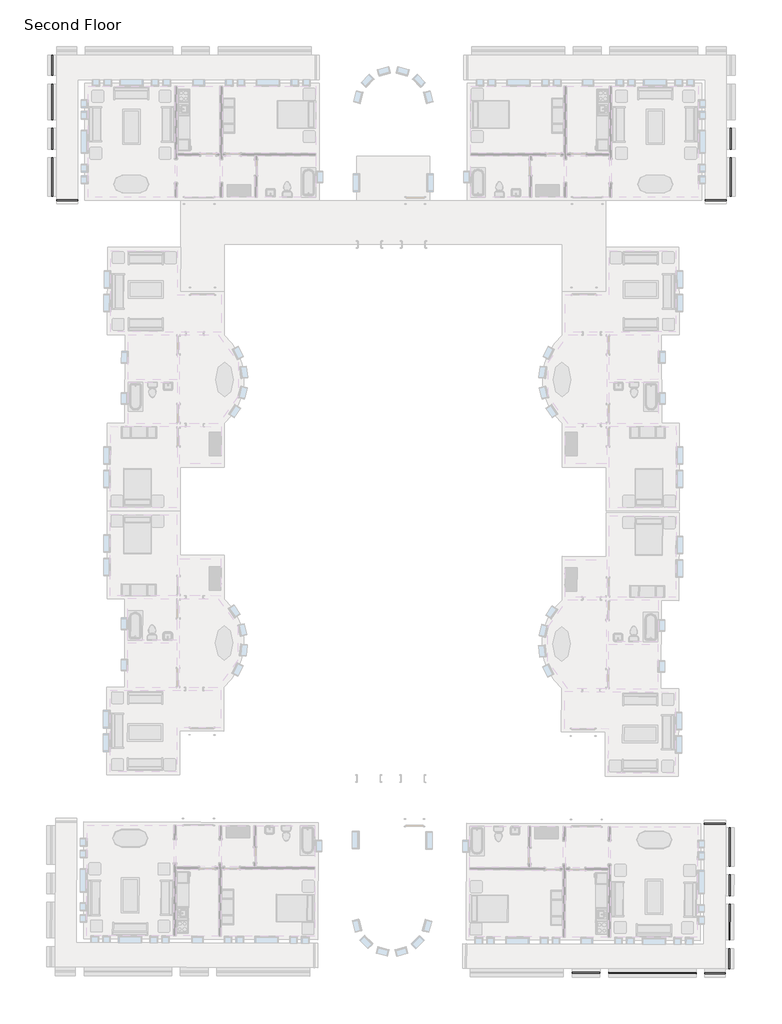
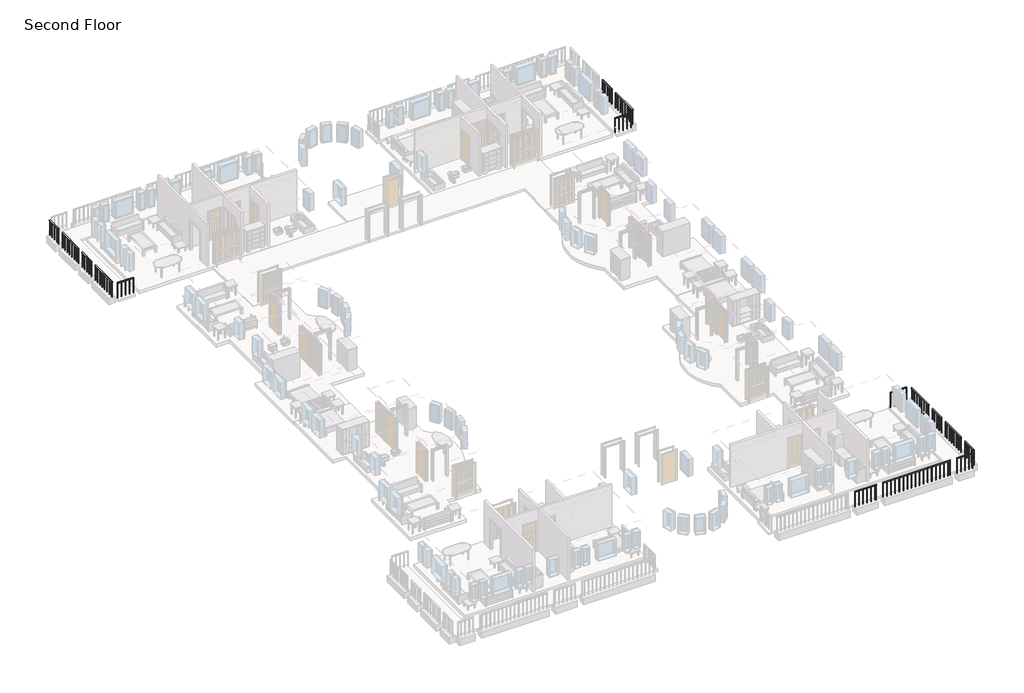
# One storey, part 5 of 8: 16 railings.
"""IFC4 building model written with IfcOpenShell, lengths in millimetres."""

from ifc_helpers import new_model, si_unit, frame, origin, place, context, project, spatial, polyline, outline, extrude, element, save

model = new_model("IFC4")

# Units and contexts
model_context = context("Model", 3, world=origin())
ifc_project = project(units=[si_unit("LENGTHUNIT", "METRE", prefix="MILLI")], contexts=[model_context])

# Site, building, storey
site = spatial("IfcSite", under=ifc_project)
building = spatial("IfcBuilding", under=site)
storey = spatial("IfcBuildingStorey", under=building, Name="Second Floor", Elevation=3048.0)

# Railings
placement = place(None, origin())
element("IfcRailing", 1, ObjectType="1100mm", at=placement, inside=storey, context=model_context, shape_type="SweptSolid", body=[
    extrude(outline(polyline([(-1443.3416203, 231.1188386), (-1393.3416203, 231.1188386), (-1393.3416203, -845.3811614), (-1443.3416203, -845.3811614), (-1443.3416203, 231.1188386)])), frame((0.0, 0.0, 4098.0), z_axis=(0.0, 0.0, 1.0), x_axis=(1.0, 0.0, 0.0)), (0.0, 0.0, 1.0), 50.0),
    extrude(outline(polyline([(-1430.8416203, -581.3811614), (-1405.8416203, -581.3811614), (-1405.8416203, -606.3811614), (-1430.8416203, -606.3811614), (-1430.8416203, -581.3811614)])), frame((0.0, 0.0, 3048.0), z_axis=(0.0, 0.0, 1.0), x_axis=(1.0, 0.0, 0.0)), (0.0, 0.0, 1.0), 1050.0),
    extrude(outline(polyline([(-1430.8416203, -306.3811614), (-1405.8416203, -306.3811614), (-1405.8416203, -331.3811614), (-1430.8416203, -331.3811614), (-1430.8416203, -306.3811614)])), frame((0.0, 0.0, 3048.0), z_axis=(0.0, 0.0, 1.0), x_axis=(1.0, 0.0, 0.0)), (0.0, 0.0, 1.0), 1050.0),
    extrude(outline(polyline([(-1430.8416203, -31.3811614), (-1405.8416203, -31.3811614), (-1405.8416203, -56.3811614), (-1430.8416203, -56.3811614), (-1430.8416203, -31.3811614)])), frame((0.0, 0.0, 3048.0), z_axis=(0.0, 0.0, 1.0), x_axis=(1.0, 0.0, 0.0)), (0.0, 0.0, 1.0), 1050.0),
    extrude(outline(polyline([(-1430.8416203, -820.3811614), (-1405.8416203, -820.3811614), (-1405.8416203, -845.3811614), (-1430.8416203, -845.3811614), (-1430.8416203, -820.3811614)])), frame((0.0, 0.0, 3048.0), z_axis=(0.0, 0.0, 1.0), x_axis=(1.0, 0.0, 0.0)), (0.0, 0.0, 1.0), 1050.0),
    extrude(outline(polyline([(-1430.8416203, 231.1188386), (-1405.8416203, 231.1188386), (-1405.8416203, 206.1188386), (-1430.8416203, 206.1188386), (-1430.8416203, 231.1188386)])), frame((0.0, 0.0, 3048.0), z_axis=(0.0, 0.0, 1.0), x_axis=(1.0, 0.0, 0.0)), (0.0, 0.0, 1.0), 1050.0),
])
element("IfcRailing", 2, ObjectType="1100mm", at=placement, inside=storey, context=model_context, shape_type="SweptSolid", body=[
    extrude(outline(polyline([(-1443.3416203, -1295.3811614), (-1393.3416203, -1295.3811614), (-1393.3416203, -3289.8811614), (-1443.3416203, -3289.8811614), (-1443.3416203, -1295.3811614)])), frame((0.0, 0.0, 4098.0), z_axis=(0.0, 0.0, 1.0), x_axis=(1.0, 0.0, 0.0)), (0.0, 0.0, 1.0), 50.0),
    extrude(outline(polyline([(-1430.8416203, -3207.8811614), (-1405.8416203, -3207.8811614), (-1405.8416203, -3232.8811614), (-1430.8416203, -3232.8811614), (-1430.8416203, -3207.8811614)])), frame((0.0, 0.0, 3048.0), z_axis=(0.0, 0.0, 1.0), x_axis=(1.0, 0.0, 0.0)), (0.0, 0.0, 1.0), 1050.0),
    extrude(outline(polyline([(-1430.8416203, -2932.8811614), (-1405.8416203, -2932.8811614), (-1405.8416203, -2957.8811614), (-1430.8416203, -2957.8811614), (-1430.8416203, -2932.8811614)])), frame((0.0, 0.0, 3048.0), z_axis=(0.0, 0.0, 1.0), x_axis=(1.0, 0.0, 0.0)), (0.0, 0.0, 1.0), 1050.0),
    extrude(outline(polyline([(-1430.8416203, -2657.8811614), (-1405.8416203, -2657.8811614), (-1405.8416203, -2682.8811614), (-1430.8416203, -2682.8811614), (-1430.8416203, -2657.8811614)])), frame((0.0, 0.0, 3048.0), z_axis=(0.0, 0.0, 1.0), x_axis=(1.0, 0.0, 0.0)), (0.0, 0.0, 1.0), 1050.0),
    extrude(outline(polyline([(-1430.8416203, -2382.8811614), (-1405.8416203, -2382.8811614), (-1405.8416203, -2407.8811614), (-1430.8416203, -2407.8811614), (-1430.8416203, -2382.8811614)])), frame((0.0, 0.0, 3048.0), z_axis=(0.0, 0.0, 1.0), x_axis=(1.0, 0.0, 0.0)), (0.0, 0.0, 1.0), 1050.0),
    extrude(outline(polyline([(-1430.8416203, -2107.8811614), (-1405.8416203, -2107.8811614), (-1405.8416203, -2132.8811614), (-1430.8416203, -2132.8811614), (-1430.8416203, -2107.8811614)])), frame((0.0, 0.0, 3048.0), z_axis=(0.0, 0.0, 1.0), x_axis=(1.0, 0.0, 0.0)), (0.0, 0.0, 1.0), 1050.0),
    extrude(outline(polyline([(-1430.8416203, -1832.8811614), (-1405.8416203, -1832.8811614), (-1405.8416203, -1857.8811614), (-1430.8416203, -1857.8811614), (-1430.8416203, -1832.8811614)])), frame((0.0, 0.0, 3048.0), z_axis=(0.0, 0.0, 1.0), x_axis=(1.0, 0.0, 0.0)), (0.0, 0.0, 1.0), 1050.0),
    extrude(outline(polyline([(-1430.8416203, -1557.8811614), (-1405.8416203, -1557.8811614), (-1405.8416203, -1582.8811614), (-1430.8416203, -1582.8811614), (-1430.8416203, -1557.8811614)])), frame((0.0, 0.0, 3048.0), z_axis=(0.0, 0.0, 1.0), x_axis=(1.0, 0.0, 0.0)), (0.0, 0.0, 1.0), 1050.0),
    extrude(outline(polyline([(-1430.8416203, -3264.8811614), (-1405.8416203, -3264.8811614), (-1405.8416203, -3289.8811614), (-1430.8416203, -3289.8811614), (-1430.8416203, -3264.8811614)])), frame((0.0, 0.0, 3048.0), z_axis=(0.0, 0.0, 1.0), x_axis=(1.0, 0.0, 0.0)), (0.0, 0.0, 1.0), 1050.0),
    extrude(outline(polyline([(-1430.8416203, -1295.3811614), (-1405.8416203, -1295.3811614), (-1405.8416203, -1320.3811614), (-1430.8416203, -1320.3811614), (-1430.8416203, -1295.3811614)])), frame((0.0, 0.0, 3048.0), z_axis=(0.0, 0.0, 1.0), x_axis=(1.0, 0.0, 0.0)), (0.0, 0.0, 1.0), 1050.0),
])
element("IfcRailing", 3, ObjectType="1100mm", at=placement, inside=storey, context=model_context, shape_type="SweptSolid", body=[
    extrude(outline(polyline([(-1643.3416203, -3489.8811614), (-1643.3416203, -3539.8811614), (-2743.3416203, -3539.8811614), (-2743.3416203, -3489.8811614), (-1643.3416203, -3489.8811614)])), frame((0.0, 0.0, 4098.0), z_axis=(0.0, 0.0, 1.0), x_axis=(1.0, 0.0, 0.0)), (0.0, 0.0, 1.0), 50.0),
    extrude(outline(polyline([(-2455.8416203, -3502.3811614), (-2455.8416203, -3527.3811614), (-2480.8416203, -3527.3811614), (-2480.8416203, -3502.3811614), (-2455.8416203, -3502.3811614)])), frame((0.0, 0.0, 3048.0), z_axis=(0.0, 0.0, 1.0), x_axis=(1.0, 0.0, 0.0)), (0.0, 0.0, 1.0), 1050.0),
    extrude(outline(polyline([(-2180.8416203, -3502.3811614), (-2180.8416203, -3527.3811614), (-2205.8416203, -3527.3811614), (-2205.8416203, -3502.3811614), (-2180.8416203, -3502.3811614)])), frame((0.0, 0.0, 3048.0), z_axis=(0.0, 0.0, 1.0), x_axis=(1.0, 0.0, 0.0)), (0.0, 0.0, 1.0), 1050.0),
    extrude(outline(polyline([(-1905.8416203, -3502.3811614), (-1905.8416203, -3527.3811614), (-1930.8416203, -3527.3811614), (-1930.8416203, -3502.3811614), (-1905.8416203, -3502.3811614)])), frame((0.0, 0.0, 3048.0), z_axis=(0.0, 0.0, 1.0), x_axis=(1.0, 0.0, 0.0)), (0.0, 0.0, 1.0), 1050.0),
    extrude(outline(polyline([(-2718.3416203, -3502.3811614), (-2718.3416203, -3527.3811614), (-2743.3416203, -3527.3811614), (-2743.3416203, -3502.3811614), (-2718.3416203, -3502.3811614)])), frame((0.0, 0.0, 3048.0), z_axis=(0.0, 0.0, 1.0), x_axis=(1.0, 0.0, 0.0)), (0.0, 0.0, 1.0), 1050.0),
    extrude(outline(polyline([(-1643.3416203, -3502.3811614), (-1643.3416203, -3527.3811614), (-1668.3416203, -3527.3811614), (-1668.3416203, -3502.3811614), (-1643.3416203, -3502.3811614)])), frame((0.0, 0.0, 3048.0), z_axis=(0.0, 0.0, 1.0), x_axis=(1.0, 0.0, 0.0)), (0.0, 0.0, 1.0), 1050.0),
])
element("IfcRailing", 4, ObjectType="1100mm", at=placement, inside=storey, context=model_context, shape_type="SweptSolid", body=[
    extrude(outline(polyline([(-36708.8416203, 4031.1188386), (-36658.8416203, 4031.1188386), (-36658.8416203, 2981.1188386), (-36708.8416203, 2981.1188386), (-36708.8416203, 4031.1188386)])), frame((0.0, 0.0, 4098.0), z_axis=(0.0, 0.0, 1.0), x_axis=(1.0, 0.0, 0.0)), (0.0, 0.0, 1.0), 50.0),
    extrude(outline(polyline([(-36671.3416203, 3218.6188386), (-36671.3416203, 3193.6188386), (-36696.3416203, 3193.6188386), (-36696.3416203, 3218.6188386), (-36671.3416203, 3218.6188386)])), frame((0.0, 0.0, 3048.0), z_axis=(0.0, 0.0, 1.0), x_axis=(1.0, 0.0, 0.0)), (0.0, 0.0, 1.0), 1050.0),
    extrude(outline(polyline([(-36671.3416203, 3493.6188386), (-36671.3416203, 3468.6188386), (-36696.3416203, 3468.6188386), (-36696.3416203, 3493.6188386), (-36671.3416203, 3493.6188386)])), frame((0.0, 0.0, 3048.0), z_axis=(0.0, 0.0, 1.0), x_axis=(1.0, 0.0, 0.0)), (0.0, 0.0, 1.0), 1050.0),
    extrude(outline(polyline([(-36671.3416203, 3768.6188386), (-36671.3416203, 3743.6188386), (-36696.3416203, 3743.6188386), (-36696.3416203, 3768.6188386), (-36671.3416203, 3768.6188386)])), frame((0.0, 0.0, 3048.0), z_axis=(0.0, 0.0, 1.0), x_axis=(1.0, 0.0, 0.0)), (0.0, 0.0, 1.0), 1050.0),
    extrude(outline(polyline([(-36671.3416203, 3006.1188386), (-36671.3416203, 2981.1188386), (-36696.3416203, 2981.1188386), (-36696.3416203, 3006.1188386), (-36671.3416203, 3006.1188386)])), frame((0.0, 0.0, 3048.0), z_axis=(0.0, 0.0, 1.0), x_axis=(1.0, 0.0, 0.0)), (0.0, 0.0, 1.0), 1050.0),
    extrude(outline(polyline([(-36671.3416203, 4031.1188386), (-36671.3416203, 4006.1188386), (-36696.3416203, 4006.1188386), (-36696.3416203, 4031.1188386), (-36671.3416203, 4031.1188386)])), frame((0.0, 0.0, 3048.0), z_axis=(0.0, 0.0, 1.0), x_axis=(1.0, 0.0, 0.0)), (0.0, 0.0, 1.0), 1050.0),
])
element("IfcRailing", 5, ObjectType="1100mm", at=placement, inside=storey, context=model_context, shape_type="SweptSolid", body=[
    extrude(outline(polyline([(-36708.8416203, 2531.1188386), (-36658.8416203, 2531.1188386), (-36658.8416203, 681.1188386), (-36708.8416203, 681.1188386), (-36708.8416203, 2531.1188386)])), frame((0.0, 0.0, 4098.0), z_axis=(0.0, 0.0, 1.0), x_axis=(1.0, 0.0, 0.0)), (0.0, 0.0, 1.0), 50.0),
    extrude(outline(polyline([(-36671.3416203, 893.6188386), (-36671.3416203, 868.6188386), (-36696.3416203, 868.6188386), (-36696.3416203, 893.6188386), (-36671.3416203, 893.6188386)])), frame((0.0, 0.0, 3048.0), z_axis=(0.0, 0.0, 1.0), x_axis=(1.0, 0.0, 0.0)), (0.0, 0.0, 1.0), 1050.0),
    extrude(outline(polyline([(-36671.3416203, 1168.6188386), (-36671.3416203, 1143.6188386), (-36696.3416203, 1143.6188386), (-36696.3416203, 1168.6188386), (-36671.3416203, 1168.6188386)])), frame((0.0, 0.0, 3048.0), z_axis=(0.0, 0.0, 1.0), x_axis=(1.0, 0.0, 0.0)), (0.0, 0.0, 1.0), 1050.0),
    extrude(outline(polyline([(-36671.3416203, 1443.6188386), (-36671.3416203, 1418.6188386), (-36696.3416203, 1418.6188386), (-36696.3416203, 1443.6188386), (-36671.3416203, 1443.6188386)])), frame((0.0, 0.0, 3048.0), z_axis=(0.0, 0.0, 1.0), x_axis=(1.0, 0.0, 0.0)), (0.0, 0.0, 1.0), 1050.0),
    extrude(outline(polyline([(-36671.3416203, 1718.6188386), (-36671.3416203, 1693.6188386), (-36696.3416203, 1693.6188386), (-36696.3416203, 1718.6188386), (-36671.3416203, 1718.6188386)])), frame((0.0, 0.0, 3048.0), z_axis=(0.0, 0.0, 1.0), x_axis=(1.0, 0.0, 0.0)), (0.0, 0.0, 1.0), 1050.0),
    extrude(outline(polyline([(-36671.3416203, 1993.6188386), (-36671.3416203, 1968.6188386), (-36696.3416203, 1968.6188386), (-36696.3416203, 1993.6188386), (-36671.3416203, 1993.6188386)])), frame((0.0, 0.0, 3048.0), z_axis=(0.0, 0.0, 1.0), x_axis=(1.0, 0.0, 0.0)), (0.0, 0.0, 1.0), 1050.0),
    extrude(outline(polyline([(-36671.3416203, 2268.6188386), (-36671.3416203, 2243.6188386), (-36696.3416203, 2243.6188386), (-36696.3416203, 2268.6188386), (-36671.3416203, 2268.6188386)])), frame((0.0, 0.0, 3048.0), z_axis=(0.0, 0.0, 1.0), x_axis=(1.0, 0.0, 0.0)), (0.0, 0.0, 1.0), 1050.0),
    extrude(outline(polyline([(-36671.3416203, 706.1188386), (-36671.3416203, 681.1188386), (-36696.3416203, 681.1188386), (-36696.3416203, 706.1188386), (-36671.3416203, 706.1188386)])), frame((0.0, 0.0, 3048.0), z_axis=(0.0, 0.0, 1.0), x_axis=(1.0, 0.0, 0.0)), (0.0, 0.0, 1.0), 1050.0),
    extrude(outline(polyline([(-36671.3416203, 2531.1188386), (-36671.3416203, 2506.1188386), (-36696.3416203, 2506.1188386), (-36696.3416203, 2531.1188386), (-36671.3416203, 2531.1188386)])), frame((0.0, 0.0, 3048.0), z_axis=(0.0, 0.0, 1.0), x_axis=(1.0, 0.0, 0.0)), (0.0, 0.0, 1.0), 1050.0),
])
element("IfcRailing", 6, ObjectType="1100mm", at=placement, inside=storey, context=model_context, shape_type="SweptSolid", body=[
    extrude(outline(polyline([(-36708.8416203, 231.1188386), (-36658.8416203, 231.1188386), (-36658.8416203, -845.3811614), (-36708.8416203, -845.3811614), (-36708.8416203, 231.1188386)])), frame((0.0, 0.0, 4098.0), z_axis=(0.0, 0.0, 1.0), x_axis=(1.0, 0.0, 0.0)), (0.0, 0.0, 1.0), 50.0),
    extrude(outline(polyline([(-36671.3416203, -581.3811614), (-36671.3416203, -606.3811614), (-36696.3416203, -606.3811614), (-36696.3416203, -581.3811614), (-36671.3416203, -581.3811614)])), frame((0.0, 0.0, 3048.0), z_axis=(0.0, 0.0, 1.0), x_axis=(1.0, 0.0, 0.0)), (0.0, 0.0, 1.0), 1050.0),
    extrude(outline(polyline([(-36671.3416203, -306.3811614), (-36671.3416203, -331.3811614), (-36696.3416203, -331.3811614), (-36696.3416203, -306.3811614), (-36671.3416203, -306.3811614)])), frame((0.0, 0.0, 3048.0), z_axis=(0.0, 0.0, 1.0), x_axis=(1.0, 0.0, 0.0)), (0.0, 0.0, 1.0), 1050.0),
    extrude(outline(polyline([(-36671.3416203, -31.3811614), (-36671.3416203, -56.3811614), (-36696.3416203, -56.3811614), (-36696.3416203, -31.3811614), (-36671.3416203, -31.3811614)])), frame((0.0, 0.0, 3048.0), z_axis=(0.0, 0.0, 1.0), x_axis=(1.0, 0.0, 0.0)), (0.0, 0.0, 1.0), 1050.0),
    extrude(outline(polyline([(-36671.3416203, -820.3811614), (-36671.3416203, -845.3811614), (-36696.3416203, -845.3811614), (-36696.3416203, -820.3811614), (-36671.3416203, -820.3811614)])), frame((0.0, 0.0, 3048.0), z_axis=(0.0, 0.0, 1.0), x_axis=(1.0, 0.0, 0.0)), (0.0, 0.0, 1.0), 1050.0),
    extrude(outline(polyline([(-36671.3416203, 231.1188386), (-36671.3416203, 206.1188386), (-36696.3416203, 206.1188386), (-36696.3416203, 231.1188386), (-36671.3416203, 231.1188386)])), frame((0.0, 0.0, 3048.0), z_axis=(0.0, 0.0, 1.0), x_axis=(1.0, 0.0, 0.0)), (0.0, 0.0, 1.0), 1050.0),
])
element("IfcRailing", 7, ObjectType="1100mm", at=placement, inside=storey, context=model_context, shape_type="SweptSolid", body=[
    extrude(outline(polyline([(-36708.8416203, -1295.3811614), (-36658.8416203, -1295.3811614), (-36658.8416203, -3289.8811614), (-36708.8416203, -3289.8811614), (-36708.8416203, -1295.3811614)])), frame((0.0, 0.0, 4098.0), z_axis=(0.0, 0.0, 1.0), x_axis=(1.0, 0.0, 0.0)), (0.0, 0.0, 1.0), 50.0),
    extrude(outline(polyline([(-36671.3416203, -3207.8811614), (-36671.3416203, -3232.8811614), (-36696.3416203, -3232.8811614), (-36696.3416203, -3207.8811614), (-36671.3416203, -3207.8811614)])), frame((0.0, 0.0, 3048.0), z_axis=(0.0, 0.0, 1.0), x_axis=(1.0, 0.0, 0.0)), (0.0, 0.0, 1.0), 1050.0),
    extrude(outline(polyline([(-36671.3416203, -2932.8811614), (-36671.3416203, -2957.8811614), (-36696.3416203, -2957.8811614), (-36696.3416203, -2932.8811614), (-36671.3416203, -2932.8811614)])), frame((0.0, 0.0, 3048.0), z_axis=(0.0, 0.0, 1.0), x_axis=(1.0, 0.0, 0.0)), (0.0, 0.0, 1.0), 1050.0),
    extrude(outline(polyline([(-36671.3416203, -2657.8811614), (-36671.3416203, -2682.8811614), (-36696.3416203, -2682.8811614), (-36696.3416203, -2657.8811614), (-36671.3416203, -2657.8811614)])), frame((0.0, 0.0, 3048.0), z_axis=(0.0, 0.0, 1.0), x_axis=(1.0, 0.0, 0.0)), (0.0, 0.0, 1.0), 1050.0),
    extrude(outline(polyline([(-36671.3416203, -2382.8811614), (-36671.3416203, -2407.8811614), (-36696.3416203, -2407.8811614), (-36696.3416203, -2382.8811614), (-36671.3416203, -2382.8811614)])), frame((0.0, 0.0, 3048.0), z_axis=(0.0, 0.0, 1.0), x_axis=(1.0, 0.0, 0.0)), (0.0, 0.0, 1.0), 1050.0),
    extrude(outline(polyline([(-36671.3416203, -2107.8811614), (-36671.3416203, -2132.8811614), (-36696.3416203, -2132.8811614), (-36696.3416203, -2107.8811614), (-36671.3416203, -2107.8811614)])), frame((0.0, 0.0, 3048.0), z_axis=(0.0, 0.0, 1.0), x_axis=(1.0, 0.0, 0.0)), (0.0, 0.0, 1.0), 1050.0),
    extrude(outline(polyline([(-36671.3416203, -1832.8811614), (-36671.3416203, -1857.8811614), (-36696.3416203, -1857.8811614), (-36696.3416203, -1832.8811614), (-36671.3416203, -1832.8811614)])), frame((0.0, 0.0, 3048.0), z_axis=(0.0, 0.0, 1.0), x_axis=(1.0, 0.0, 0.0)), (0.0, 0.0, 1.0), 1050.0),
    extrude(outline(polyline([(-36671.3416203, -1557.8811614), (-36671.3416203, -1582.8811614), (-36696.3416203, -1582.8811614), (-36696.3416203, -1557.8811614), (-36671.3416203, -1557.8811614)])), frame((0.0, 0.0, 3048.0), z_axis=(0.0, 0.0, 1.0), x_axis=(1.0, 0.0, 0.0)), (0.0, 0.0, 1.0), 1050.0),
    extrude(outline(polyline([(-36671.3416203, -3264.8811614), (-36671.3416203, -3289.8811614), (-36696.3416203, -3289.8811614), (-36696.3416203, -3264.8811614), (-36671.3416203, -3264.8811614)])), frame((0.0, 0.0, 3048.0), z_axis=(0.0, 0.0, 1.0), x_axis=(1.0, 0.0, 0.0)), (0.0, 0.0, 1.0), 1050.0),
    extrude(outline(polyline([(-36671.3416203, -1295.3811614), (-36671.3416203, -1320.3811614), (-36696.3416203, -1320.3811614), (-36696.3416203, -1295.3811614), (-36671.3416203, -1295.3811614)])), frame((0.0, 0.0, 3048.0), z_axis=(0.0, 0.0, 1.0), x_axis=(1.0, 0.0, 0.0)), (0.0, 0.0, 1.0), 1050.0),
])
element("IfcRailing", 8, ObjectType="1100mm", at=placement, inside=storey, context=model_context, shape_type="SweptSolid", body=[
    extrude(outline(polyline([(-36458.8416203, -3539.8811614), (-36458.8416203, -3489.8811614), (-35358.8416203, -3489.8811614), (-35358.8416203, -3539.8811614), (-36458.8416203, -3539.8811614)])), frame((0.0, 0.0, 4098.0), z_axis=(0.0, 0.0, 1.0), x_axis=(1.0, 0.0, 0.0)), (0.0, 0.0, 1.0), 50.0),
    extrude(outline(polyline([(-35646.3416203, -3502.3811614), (-35621.3416203, -3502.3811614), (-35621.3416203, -3527.3811614), (-35646.3416203, -3527.3811614), (-35646.3416203, -3502.3811614)])), frame((0.0, 0.0, 3048.0), z_axis=(0.0, 0.0, 1.0), x_axis=(1.0, 0.0, 0.0)), (0.0, 0.0, 1.0), 1050.0),
    extrude(outline(polyline([(-35921.3416203, -3502.3811614), (-35896.3416203, -3502.3811614), (-35896.3416203, -3527.3811614), (-35921.3416203, -3527.3811614), (-35921.3416203, -3502.3811614)])), frame((0.0, 0.0, 3048.0), z_axis=(0.0, 0.0, 1.0), x_axis=(1.0, 0.0, 0.0)), (0.0, 0.0, 1.0), 1050.0),
    extrude(outline(polyline([(-36196.3416203, -3502.3811614), (-36171.3416203, -3502.3811614), (-36171.3416203, -3527.3811614), (-36196.3416203, -3527.3811614), (-36196.3416203, -3502.3811614)])), frame((0.0, 0.0, 3048.0), z_axis=(0.0, 0.0, 1.0), x_axis=(1.0, 0.0, 0.0)), (0.0, 0.0, 1.0), 1050.0),
    extrude(outline(polyline([(-35383.8416203, -3502.3811614), (-35358.8416203, -3502.3811614), (-35358.8416203, -3527.3811614), (-35383.8416203, -3527.3811614), (-35383.8416203, -3502.3811614)])), frame((0.0, 0.0, 3048.0), z_axis=(0.0, 0.0, 1.0), x_axis=(1.0, 0.0, 0.0)), (0.0, 0.0, 1.0), 1050.0),
    extrude(outline(polyline([(-36458.8416203, -3502.3811614), (-36433.8416203, -3502.3811614), (-36433.8416203, -3527.3811614), (-36458.8416203, -3527.3811614), (-36458.8416203, -3502.3811614)])), frame((0.0, 0.0, 3048.0), z_axis=(0.0, 0.0, 1.0), x_axis=(1.0, 0.0, 0.0)), (0.0, 0.0, 1.0), 1050.0),
])
element("IfcRailing", 9, ObjectType="1100mm", at=placement, inside=storey, context=model_context, shape_type="SweptSolid", body=[
    extrude(outline(polyline([(-9662.7593629, -43678.1904497), (-9662.6146202, -43628.1906592), (-8212.6206958, -43632.3881974), (-8212.7654385, -43682.3879879), (-9662.7593629, -43678.1904497)])), frame((0.0, 0.0, 4098.0), z_axis=(0.0, 0.0, 1.0), x_axis=(1.0, 0.0, 0.0)), (0.0, 0.0, 1.0), 50.0),
    extrude(outline(polyline([(-8300.1565149, -43644.6348453), (-8275.1566196, -43644.7072166), (-8275.228991, -43669.7071119), (-8300.2288862, -43669.6347405), (-8300.1565149, -43644.6348453)])), frame((0.0, 0.0, 3048.0), z_axis=(0.0, 0.0, 1.0), x_axis=(1.0, 0.0, 0.0)), (0.0, 0.0, 1.0), 1050.0),
    extrude(outline(polyline([(-8575.1553626, -43643.8387604), (-8550.1554673, -43643.9111318), (-8550.2278387, -43668.911027), (-8575.2277339, -43668.8386557), (-8575.1553626, -43643.8387604)])), frame((0.0, 0.0, 3048.0), z_axis=(0.0, 0.0, 1.0), x_axis=(1.0, 0.0, 0.0)), (0.0, 0.0, 1.0), 1050.0),
    extrude(outline(polyline([(-8850.1542103, -43643.0426756), (-8825.1543151, -43643.115047), (-8825.2266864, -43668.1149422), (-8850.2265816, -43668.0425709), (-8850.1542103, -43643.0426756)])), frame((0.0, 0.0, 3048.0), z_axis=(0.0, 0.0, 1.0), x_axis=(1.0, 0.0, 0.0)), (0.0, 0.0, 1.0), 1050.0),
    extrude(outline(polyline([(-9125.153058, -43642.2465908), (-9100.1531628, -43642.3189621), (-9100.2255341, -43667.3188574), (-9125.2254294, -43667.246486), (-9125.153058, -43642.2465908)])), frame((0.0, 0.0, 3048.0), z_axis=(0.0, 0.0, 1.0), x_axis=(1.0, 0.0, 0.0)), (0.0, 0.0, 1.0), 1050.0),
    extrude(outline(polyline([(-9400.1519057, -43641.450506), (-9375.1520105, -43641.5228773), (-9375.2243818, -43666.5227726), (-9400.2242771, -43666.4504012), (-9400.1519057, -43641.450506)])), frame((0.0, 0.0, 3048.0), z_axis=(0.0, 0.0, 1.0), x_axis=(1.0, 0.0, 0.0)), (0.0, 0.0, 1.0), 1050.0),
    extrude(outline(polyline([(-8237.6567767, -43644.8157736), (-8212.6568815, -43644.888145), (-8212.7292528, -43669.8880402), (-8237.7291481, -43669.8156689), (-8237.6567767, -43644.8157736)])), frame((0.0, 0.0, 3048.0), z_axis=(0.0, 0.0, 1.0), x_axis=(1.0, 0.0, 0.0)), (0.0, 0.0, 1.0), 1050.0),
    extrude(outline(polyline([(-9662.6508058, -43640.6906068), (-9637.6509106, -43640.7629782), (-9637.7232819, -43665.7628734), (-9662.7231772, -43665.6905021), (-9662.6508058, -43640.6906068)])), frame((0.0, 0.0, 3048.0), z_axis=(0.0, 0.0, 1.0), x_axis=(1.0, 0.0, 0.0)), (0.0, 0.0, 1.0), 1050.0),
])
element("IfcRailing", 10, ObjectType="1100mm", at=placement, inside=storey, context=model_context, shape_type="SweptSolid", body=[
    extrude(outline(polyline([(-7762.7673241, -43683.6906721), (-7762.6225814, -43633.6908816), (-3212.6416463, -43646.8624669), (-3212.786389, -43696.8622574), (-7762.7673241, -43683.6906721)])), frame((0.0, 0.0, 4098.0), z_axis=(0.0, 0.0, 1.0), x_axis=(1.0, 0.0, 0.0)), (0.0, 0.0, 1.0), 50.0),
    extrude(outline(polyline([(-3375.1771511, -43658.8920008), (-3350.1772558, -43658.9643721), (-3350.2496272, -43683.9642674), (-3375.2495224, -43683.891896), (-3375.1771511, -43658.8920008)])), frame((0.0, 0.0, 3048.0), z_axis=(0.0, 0.0, 1.0), x_axis=(1.0, 0.0, 0.0)), (0.0, 0.0, 1.0), 1050.0),
    extrude(outline(polyline([(-3650.1759988, -43658.095916), (-3625.1761036, -43658.1682873), (-3625.2484749, -43683.1681826), (-3650.2483702, -43683.0958112), (-3650.1759988, -43658.095916)])), frame((0.0, 0.0, 3048.0), z_axis=(0.0, 0.0, 1.0), x_axis=(1.0, 0.0, 0.0)), (0.0, 0.0, 1.0), 1050.0),
    extrude(outline(polyline([(-3925.1748465, -43657.2998311), (-3900.1749513, -43657.3722025), (-3900.2473226, -43682.3720977), (-3925.2472179, -43682.2997264), (-3925.1748465, -43657.2998311)])), frame((0.0, 0.0, 3048.0), z_axis=(0.0, 0.0, 1.0), x_axis=(1.0, 0.0, 0.0)), (0.0, 0.0, 1.0), 1050.0),
    extrude(outline(polyline([(-4200.1736943, -43656.5037463), (-4175.173799, -43656.5761177), (-4175.2461704, -43681.5760129), (-4200.2460656, -43681.5036416), (-4200.1736943, -43656.5037463)])), frame((0.0, 0.0, 3048.0), z_axis=(0.0, 0.0, 1.0), x_axis=(1.0, 0.0, 0.0)), (0.0, 0.0, 1.0), 1050.0),
    extrude(outline(polyline([(-4475.172542, -43655.7076615), (-4450.1726467, -43655.7800328), (-4450.2450181, -43680.7799281), (-4475.2449133, -43680.7075567), (-4475.172542, -43655.7076615)])), frame((0.0, 0.0, 3048.0), z_axis=(0.0, 0.0, 1.0), x_axis=(1.0, 0.0, 0.0)), (0.0, 0.0, 1.0), 1050.0),
    extrude(outline(polyline([(-4750.1713897, -43654.9115767), (-4725.1714945, -43654.983948), (-4725.2438658, -43679.9838433), (-4750.243761, -43679.9114719), (-4750.1713897, -43654.9115767)])), frame((0.0, 0.0, 3048.0), z_axis=(0.0, 0.0, 1.0), x_axis=(1.0, 0.0, 0.0)), (0.0, 0.0, 1.0), 1050.0),
    extrude(outline(polyline([(-5025.1702374, -43654.1154918), (-5000.1703422, -43654.1878632), (-5000.2427135, -43679.1877584), (-5025.2426088, -43679.1153871), (-5025.1702374, -43654.1154918)])), frame((0.0, 0.0, 3048.0), z_axis=(0.0, 0.0, 1.0), x_axis=(1.0, 0.0, 0.0)), (0.0, 0.0, 1.0), 1050.0),
    extrude(outline(polyline([(-5300.1690851, -43653.319407), (-5275.1691899, -43653.3917784), (-5275.2415612, -43678.3916736), (-5300.2414565, -43678.3193023), (-5300.1690851, -43653.319407)])), frame((0.0, 0.0, 3048.0), z_axis=(0.0, 0.0, 1.0), x_axis=(1.0, 0.0, 0.0)), (0.0, 0.0, 1.0), 1050.0),
    extrude(outline(polyline([(-5575.1679329, -43652.5233222), (-5550.1680376, -43652.5956935), (-5550.240409, -43677.5955888), (-5575.2403042, -43677.5232174), (-5575.1679329, -43652.5233222)])), frame((0.0, 0.0, 3048.0), z_axis=(0.0, 0.0, 1.0), x_axis=(1.0, 0.0, 0.0)), (0.0, 0.0, 1.0), 1050.0),
    extrude(outline(polyline([(-5850.1667806, -43651.7272374), (-5825.1668853, -43651.7996087), (-5825.2392567, -43676.799504), (-5850.2391519, -43676.7271326), (-5850.1667806, -43651.7272374)])), frame((0.0, 0.0, 3048.0), z_axis=(0.0, 0.0, 1.0), x_axis=(1.0, 0.0, 0.0)), (0.0, 0.0, 1.0), 1050.0),
    extrude(outline(polyline([(-6125.1656283, -43650.9311525), (-6100.1657331, -43651.0035239), (-6100.2381044, -43676.0034191), (-6125.2379997, -43675.9310478), (-6125.1656283, -43650.9311525)])), frame((0.0, 0.0, 3048.0), z_axis=(0.0, 0.0, 1.0), x_axis=(1.0, 0.0, 0.0)), (0.0, 0.0, 1.0), 1050.0),
    extrude(outline(polyline([(-6400.164476, -43650.1350677), (-6375.1645808, -43650.2074391), (-6375.2369521, -43675.2073343), (-6400.2368474, -43675.134963), (-6400.164476, -43650.1350677)])), frame((0.0, 0.0, 3048.0), z_axis=(0.0, 0.0, 1.0), x_axis=(1.0, 0.0, 0.0)), (0.0, 0.0, 1.0), 1050.0),
    extrude(outline(polyline([(-6675.1633238, -43649.3389829), (-6650.1634285, -43649.4113542), (-6650.2357999, -43674.4112495), (-6675.2356951, -43674.3388781), (-6675.1633238, -43649.3389829)])), frame((0.0, 0.0, 3048.0), z_axis=(0.0, 0.0, 1.0), x_axis=(1.0, 0.0, 0.0)), (0.0, 0.0, 1.0), 1050.0),
    extrude(outline(polyline([(-6950.1621715, -43648.5428981), (-6925.1622762, -43648.6152694), (-6925.2346476, -43673.6151647), (-6950.2345428, -43673.5427933), (-6950.1621715, -43648.5428981)])), frame((0.0, 0.0, 3048.0), z_axis=(0.0, 0.0, 1.0), x_axis=(1.0, 0.0, 0.0)), (0.0, 0.0, 1.0), 1050.0),
    extrude(outline(polyline([(-7225.1610192, -43647.7468132), (-7200.161124, -43647.8191846), (-7200.2334953, -43672.8190798), (-7225.2333906, -43672.7467085), (-7225.1610192, -43647.7468132)])), frame((0.0, 0.0, 3048.0), z_axis=(0.0, 0.0, 1.0), x_axis=(1.0, 0.0, 0.0)), (0.0, 0.0, 1.0), 1050.0),
    extrude(outline(polyline([(-7500.1598669, -43646.9507284), (-7475.1599717, -43647.0230998), (-7475.232343, -43672.022995), (-7500.2322383, -43671.9506237), (-7500.1598669, -43646.9507284)])), frame((0.0, 0.0, 3048.0), z_axis=(0.0, 0.0, 1.0), x_axis=(1.0, 0.0, 0.0)), (0.0, 0.0, 1.0), 1050.0),
    extrude(outline(polyline([(-3237.6777272, -43659.2900432), (-3212.677832, -43659.3624146), (-3212.7502033, -43684.3623098), (-3237.7500986, -43684.2899385), (-3237.6777272, -43659.2900432)])), frame((0.0, 0.0, 3048.0), z_axis=(0.0, 0.0, 1.0), x_axis=(1.0, 0.0, 0.0)), (0.0, 0.0, 1.0), 1050.0),
    extrude(outline(polyline([(-7762.658767, -43646.1908293), (-7737.6588718, -43646.2632006), (-7737.7312431, -43671.2630958), (-7762.7311384, -43671.1907245), (-7762.658767, -43646.1908293)])), frame((0.0, 0.0, 3048.0), z_axis=(0.0, 0.0, 1.0), x_axis=(1.0, 0.0, 0.0)), (0.0, 0.0, 1.0), 1050.0),
])
element("IfcRailing", 11, ObjectType="1100mm", at=placement, inside=storey, context=model_context, shape_type="SweptSolid", body=[
    extrude(outline(polyline([(-2762.7882745, -43698.1649417), (-2762.6435318, -43648.1651512), (-1712.6479315, -43651.2047478), (-1712.7926741, -43701.2045383), (-2762.7882745, -43698.1649417)])), frame((0.0, 0.0, 4098.0), z_axis=(0.0, 0.0, 1.0), x_axis=(1.0, 0.0, 0.0)), (0.0, 0.0, 1.0), 50.0),
    extrude(outline(polyline([(-1950.183122, -43663.0171676), (-1925.1832267, -43663.089539), (-1925.2555981, -43688.0894342), (-1950.2554933, -43688.0170629), (-1950.183122, -43663.0171676)])), frame((0.0, 0.0, 3048.0), z_axis=(0.0, 0.0, 1.0), x_axis=(1.0, 0.0, 0.0)), (0.0, 0.0, 1.0), 1050.0),
    extrude(outline(polyline([(-2225.1819697, -43662.2210828), (-2200.1820745, -43662.2934542), (-2200.2544458, -43687.2933494), (-2225.254341, -43687.2209781), (-2225.1819697, -43662.2210828)])), frame((0.0, 0.0, 3048.0), z_axis=(0.0, 0.0, 1.0), x_axis=(1.0, 0.0, 0.0)), (0.0, 0.0, 1.0), 1050.0),
    extrude(outline(polyline([(-2500.1808174, -43661.424998), (-2475.1809222, -43661.4973693), (-2475.2532935, -43686.4972646), (-2500.2531888, -43686.4248932), (-2500.1808174, -43661.424998)])), frame((0.0, 0.0, 3048.0), z_axis=(0.0, 0.0, 1.0), x_axis=(1.0, 0.0, 0.0)), (0.0, 0.0, 1.0), 1050.0),
    extrude(outline(polyline([(-1737.6840124, -43663.6323241), (-1712.6841171, -43663.7046954), (-1712.7564885, -43688.7045907), (-1737.7563837, -43688.6322193), (-1737.6840124, -43663.6323241)])), frame((0.0, 0.0, 3048.0), z_axis=(0.0, 0.0, 1.0), x_axis=(1.0, 0.0, 0.0)), (0.0, 0.0, 1.0), 1050.0),
    extrude(outline(polyline([(-2762.6797175, -43660.6650988), (-2737.6798223, -43660.7374702), (-2737.7521936, -43685.7373654), (-2762.7520889, -43685.6649941), (-2762.6797175, -43660.6650988)])), frame((0.0, 0.0, 3048.0), z_axis=(0.0, 0.0, 1.0), x_axis=(1.0, 0.0, 0.0)), (0.0, 0.0, 1.0), 1050.0),
])
element("IfcRailing", 12, ObjectType="1100mm", at=placement, inside=storey, context=model_context, shape_type="SweptSolid", body=[
    extrude(outline(polyline([(-1462.0700082, -43451.9292993), (-1512.0697987, -43451.7845566), (-1509.0302021, -42401.7889562), (-1459.0304116, -42401.9336989), (-1462.0700082, -43451.9292993)])), frame((0.0, 0.0, 4098.0), z_axis=(0.0, 0.0, 1.0), x_axis=(1.0, 0.0, 0.0)), (0.0, 0.0, 1.0), 50.0),
    extrude(outline(polyline([(-1497.2177823, -42639.3241467), (-1497.1454109, -42614.3242515), (-1472.1455157, -42614.3966228), (-1472.217887, -42639.3965181), (-1497.2177823, -42639.3241467)])), frame((0.0, 0.0, 3048.0), z_axis=(0.0, 0.0, 1.0), x_axis=(1.0, 0.0, 0.0)), (0.0, 0.0, 1.0), 1050.0),
    extrude(outline(polyline([(-1498.0138671, -42914.3229945), (-1497.9414957, -42889.3230992), (-1472.9416005, -42889.3954706), (-1473.0139718, -42914.3953658), (-1498.0138671, -42914.3229945)])), frame((0.0, 0.0, 3048.0), z_axis=(0.0, 0.0, 1.0), x_axis=(1.0, 0.0, 0.0)), (0.0, 0.0, 1.0), 1050.0),
    extrude(outline(polyline([(-1498.8099519, -43189.3218422), (-1498.7375806, -43164.3219469), (-1473.7376853, -43164.3943183), (-1473.8100567, -43189.3942135), (-1498.8099519, -43189.3218422)])), frame((0.0, 0.0, 3048.0), z_axis=(0.0, 0.0, 1.0), x_axis=(1.0, 0.0, 0.0)), (0.0, 0.0, 1.0), 1050.0),
    extrude(outline(polyline([(-1496.6026258, -42426.8250371), (-1496.5302545, -42401.8251419), (-1471.5303592, -42401.8975132), (-1471.6027306, -42426.8974085), (-1496.6026258, -42426.8250371)])), frame((0.0, 0.0, 3048.0), z_axis=(0.0, 0.0, 1.0), x_axis=(1.0, 0.0, 0.0)), (0.0, 0.0, 1.0), 1050.0),
    extrude(outline(polyline([(-1499.5698511, -43451.8207423), (-1499.4974797, -43426.820847), (-1474.4975845, -43426.8932184), (-1474.5699558, -43451.8931136), (-1499.5698511, -43451.8207423)])), frame((0.0, 0.0, 3048.0), z_axis=(0.0, 0.0, 1.0), x_axis=(1.0, 0.0, 0.0)), (0.0, 0.0, 1.0), 1050.0),
])
element("IfcRailing", 13, ObjectType="1100mm", at=placement, inside=storey, context=model_context, shape_type="SweptSolid", body=[
    extrude(outline(polyline([(-1457.7277273, -41951.9355845), (-1507.7275178, -41951.7908418), (-1502.3720381, -40101.7985934), (-1452.3722476, -40101.9433361), (-1457.7277273, -41951.9355845)])), frame((0.0, 0.0, 4098.0), z_axis=(0.0, 0.0, 1.0), x_axis=(1.0, 0.0, 0.0)), (0.0, 0.0, 1.0), 50.0),
    extrude(outline(polyline([(-1490.4872469, -40314.3338887), (-1490.4148756, -40289.3339935), (-1465.4149803, -40289.4063648), (-1465.4873517, -40314.4062601), (-1490.4872469, -40314.3338887)])), frame((0.0, 0.0, 3048.0), z_axis=(0.0, 0.0, 1.0), x_axis=(1.0, 0.0, 0.0)), (0.0, 0.0, 1.0), 1050.0),
    extrude(outline(polyline([(-1491.2833317, -40589.3327364), (-1491.2109604, -40564.3328412), (-1466.2110651, -40564.4052125), (-1466.2834365, -40589.4051078), (-1491.2833317, -40589.3327364)])), frame((0.0, 0.0, 3048.0), z_axis=(0.0, 0.0, 1.0), x_axis=(1.0, 0.0, 0.0)), (0.0, 0.0, 1.0), 1050.0),
    extrude(outline(polyline([(-1492.0794166, -40864.3315842), (-1492.0070452, -40839.3316889), (-1467.00715, -40839.4040603), (-1467.0795213, -40864.4039555), (-1492.0794166, -40864.3315842)])), frame((0.0, 0.0, 3048.0), z_axis=(0.0, 0.0, 1.0), x_axis=(1.0, 0.0, 0.0)), (0.0, 0.0, 1.0), 1050.0),
    extrude(outline(polyline([(-1492.8755014, -41139.3304319), (-1492.80313, -41114.3305366), (-1467.8032348, -41114.402908), (-1467.8756061, -41139.4028032), (-1492.8755014, -41139.3304319)])), frame((0.0, 0.0, 3048.0), z_axis=(0.0, 0.0, 1.0), x_axis=(1.0, 0.0, 0.0)), (0.0, 0.0, 1.0), 1050.0),
    extrude(outline(polyline([(-1493.6715862, -41414.3292796), (-1493.5992149, -41389.3293844), (-1468.5993196, -41389.4017557), (-1468.671691, -41414.401651), (-1493.6715862, -41414.3292796)])), frame((0.0, 0.0, 3048.0), z_axis=(0.0, 0.0, 1.0), x_axis=(1.0, 0.0, 0.0)), (0.0, 0.0, 1.0), 1050.0),
    extrude(outline(polyline([(-1494.467671, -41689.3281273), (-1494.3952997, -41664.3282321), (-1469.3954044, -41664.4006034), (-1469.4677758, -41689.4004987), (-1494.467671, -41689.3281273)])), frame((0.0, 0.0, 3048.0), z_axis=(0.0, 0.0, 1.0), x_axis=(1.0, 0.0, 0.0)), (0.0, 0.0, 1.0), 1050.0),
    extrude(outline(polyline([(-1489.9444618, -40126.8346744), (-1489.8720905, -40101.8347791), (-1464.8721952, -40101.9071505), (-1464.9445666, -40126.9070457), (-1489.9444618, -40126.8346744)])), frame((0.0, 0.0, 3048.0), z_axis=(0.0, 0.0, 1.0), x_axis=(1.0, 0.0, 0.0)), (0.0, 0.0, 1.0), 1050.0),
    extrude(outline(polyline([(-1495.2275702, -41951.8270274), (-1495.1551988, -41926.8271322), (-1470.1553036, -41926.8995035), (-1470.2276749, -41951.8993988), (-1495.2275702, -41951.8270274)])), frame((0.0, 0.0, 3048.0), z_axis=(0.0, 0.0, 1.0), x_axis=(1.0, 0.0, 0.0)), (0.0, 0.0, 1.0), 1050.0),
])
element("IfcRailing", 14, ObjectType="1100mm", at=placement, inside=storey, context=model_context, shape_type="SweptSolid", body=[
    extrude(outline(polyline([(-1451.0695633, -39651.9452217), (-1501.0693538, -39651.800479), (-1497.9530436, -38575.3049896), (-1447.9532531, -38575.4497323), (-1451.0695633, -39651.9452217)])), frame((0.0, 0.0, 4098.0), z_axis=(0.0, 0.0, 1.0), x_axis=(1.0, 0.0, 0.0)), (0.0, 0.0, 1.0), 50.0),
    extrude(outline(polyline([(-1486.2173374, -38839.3400691), (-1486.144966, -38814.3401739), (-1461.1450708, -38814.4125452), (-1461.2174421, -38839.4124405), (-1486.2173374, -38839.3400691)])), frame((0.0, 0.0, 3048.0), z_axis=(0.0, 0.0, 1.0), x_axis=(1.0, 0.0, 0.0)), (0.0, 0.0, 1.0), 1050.0),
    extrude(outline(polyline([(-1487.0134222, -39114.3389168), (-1486.9410509, -39089.3390216), (-1461.9411556, -39089.4113929), (-1462.013527, -39114.4112882), (-1487.0134222, -39114.3389168)])), frame((0.0, 0.0, 3048.0), z_axis=(0.0, 0.0, 1.0), x_axis=(1.0, 0.0, 0.0)), (0.0, 0.0, 1.0), 1050.0),
    extrude(outline(polyline([(-1487.809507, -39389.3377646), (-1487.7371357, -39364.3378693), (-1462.7372404, -39364.4102407), (-1462.8096118, -39389.4101359), (-1487.809507, -39389.3377646)])), frame((0.0, 0.0, 3048.0), z_axis=(0.0, 0.0, 1.0), x_axis=(1.0, 0.0, 0.0)), (0.0, 0.0, 1.0), 1050.0),
    extrude(outline(polyline([(-1485.5254673, -38600.3410705), (-1485.453096, -38575.3411753), (-1460.4532007, -38575.4135466), (-1460.5255721, -38600.4134419), (-1485.5254673, -38600.3410705)])), frame((0.0, 0.0, 3048.0), z_axis=(0.0, 0.0, 1.0), x_axis=(1.0, 0.0, 0.0)), (0.0, 0.0, 1.0), 1050.0),
    extrude(outline(polyline([(-1488.5694062, -39651.8366647), (-1488.4970348, -39626.8367694), (-1463.4971396, -39626.9091408), (-1463.5695109, -39651.909036), (-1488.5694062, -39651.8366647)])), frame((0.0, 0.0, 3048.0), z_axis=(0.0, 0.0, 1.0), x_axis=(1.0, 0.0, 0.0)), (0.0, 0.0, 1.0), 1050.0),
])
element("IfcRailing", 15, ObjectType="1100mm", at=placement, inside=storey, context=model_context, shape_type="SweptSolid", body=[
    extrude(outline(polyline([(-1446.6505688, -38125.4516179), (-1496.6503593, -38125.3068752), (-1490.8765732, -36130.8152323), (-1440.8767827, -36130.959975), (-1446.6505688, -38125.4516179)])), frame((0.0, 0.0, 4098.0), z_axis=(0.0, 0.0, 1.0), x_axis=(1.0, 0.0, 0.0)), (0.0, 0.0, 1.0), 50.0),
    extrude(outline(polyline([(-1478.6140036, -36212.8510744), (-1478.5416322, -36187.8511792), (-1453.541737, -36187.9235505), (-1453.6141083, -36212.9234458), (-1478.6140036, -36212.8510744)])), frame((0.0, 0.0, 3048.0), z_axis=(0.0, 0.0, 1.0), x_axis=(1.0, 0.0, 0.0)), (0.0, 0.0, 1.0), 1050.0),
    extrude(outline(polyline([(-1479.4100884, -36487.8499221), (-1479.3377171, -36462.8500269), (-1454.3378218, -36462.9223982), (-1454.4101932, -36487.9222935), (-1479.4100884, -36487.8499221)])), frame((0.0, 0.0, 3048.0), z_axis=(0.0, 0.0, 1.0), x_axis=(1.0, 0.0, 0.0)), (0.0, 0.0, 1.0), 1050.0),
    extrude(outline(polyline([(-1480.2061732, -36762.8487699), (-1480.1338019, -36737.8488746), (-1455.1339066, -36737.921246), (-1455.206278, -36762.9211412), (-1480.2061732, -36762.8487699)])), frame((0.0, 0.0, 3048.0), z_axis=(0.0, 0.0, 1.0), x_axis=(1.0, 0.0, 0.0)), (0.0, 0.0, 1.0), 1050.0),
    extrude(outline(polyline([(-1481.0022581, -37037.8476176), (-1480.9298867, -37012.8477223), (-1455.9299915, -37012.9200937), (-1456.0023628, -37037.9199889), (-1481.0022581, -37037.8476176)])), frame((0.0, 0.0, 3048.0), z_axis=(0.0, 0.0, 1.0), x_axis=(1.0, 0.0, 0.0)), (0.0, 0.0, 1.0), 1050.0),
    extrude(outline(polyline([(-1481.7983429, -37312.8464653), (-1481.7259715, -37287.8465701), (-1456.7260763, -37287.9189414), (-1456.7984476, -37312.9188366), (-1481.7983429, -37312.8464653)])), frame((0.0, 0.0, 3048.0), z_axis=(0.0, 0.0, 1.0), x_axis=(1.0, 0.0, 0.0)), (0.0, 0.0, 1.0), 1050.0),
    extrude(outline(polyline([(-1482.5944277, -37587.845313), (-1482.5220564, -37562.8454178), (-1457.5221611, -37562.9177891), (-1457.5945325, -37587.9176844), (-1482.5944277, -37587.845313)])), frame((0.0, 0.0, 3048.0), z_axis=(0.0, 0.0, 1.0), x_axis=(1.0, 0.0, 0.0)), (0.0, 0.0, 1.0), 1050.0),
    extrude(outline(polyline([(-1483.3905125, -37862.8441607), (-1483.3181412, -37837.8442655), (-1458.3182459, -37837.9166368), (-1458.3906173, -37862.9165321), (-1483.3905125, -37862.8441607)])), frame((0.0, 0.0, 3048.0), z_axis=(0.0, 0.0, 1.0), x_axis=(1.0, 0.0, 0.0)), (0.0, 0.0, 1.0), 1050.0),
    extrude(outline(polyline([(-1478.4489969, -36155.8513132), (-1478.3766256, -36130.851418), (-1453.3767303, -36130.9237893), (-1453.4491017, -36155.9236846), (-1478.4489969, -36155.8513132)])), frame((0.0, 0.0, 3048.0), z_axis=(0.0, 0.0, 1.0), x_axis=(1.0, 0.0, 0.0)), (0.0, 0.0, 1.0), 1050.0),
    extrude(outline(polyline([(-1484.1504117, -38125.3430608), (-1484.0780403, -38100.3431656), (-1459.0781451, -38100.4155369), (-1459.1505164, -38125.4154322), (-1484.1504117, -38125.3430608)])), frame((0.0, 0.0, 3048.0), z_axis=(0.0, 0.0, 1.0), x_axis=(1.0, 0.0, 0.0)), (0.0, 0.0, 1.0), 1050.0),
])
element("IfcRailing", 16, ObjectType="1100mm", at=placement, inside=storey, context=model_context, shape_type="SweptSolid", body=[
    extrude(outline(polyline([(-1690.1520217, -35880.2373091), (-1690.2967644, -35930.2370996), (-2790.2921553, -35927.0527603), (-2790.1474126, -35877.0529698), (-1690.1520217, -35880.2373091)])), frame((0.0, 0.0, 4098.0), z_axis=(0.0, 0.0, 1.0), x_axis=(1.0, 0.0, 0.0)), (0.0, 0.0, 1.0), 50.0),
    extrude(outline(polyline([(-2502.7571743, -35915.3850831), (-2527.7570695, -35915.3127118), (-2527.6846982, -35890.3128165), (-2502.6848029, -35890.3851879), (-2502.7571743, -35915.3850831)])), frame((0.0, 0.0, 3048.0), z_axis=(0.0, 0.0, 1.0), x_axis=(1.0, 0.0, 0.0)), (0.0, 0.0, 1.0), 1050.0),
    extrude(outline(polyline([(-2227.7583265, -35916.181168), (-2252.7582218, -35916.1087966), (-2252.6858504, -35891.1089014), (-2227.6859552, -35891.1812727), (-2227.7583265, -35916.181168)])), frame((0.0, 0.0, 3048.0), z_axis=(0.0, 0.0, 1.0), x_axis=(1.0, 0.0, 0.0)), (0.0, 0.0, 1.0), 1050.0),
    extrude(outline(polyline([(-1952.7594788, -35916.9772528), (-1977.7593741, -35916.9048814), (-1977.6870027, -35891.9049862), (-1952.6871075, -35891.9773575), (-1952.7594788, -35916.9772528)])), frame((0.0, 0.0, 3048.0), z_axis=(0.0, 0.0, 1.0), x_axis=(1.0, 0.0, 0.0)), (0.0, 0.0, 1.0), 1050.0),
    extrude(outline(polyline([(-2765.2560744, -35914.625184), (-2790.2559696, -35914.5528126), (-2790.1835983, -35889.5529174), (-2765.183703, -35889.6252887), (-2765.2560744, -35914.625184)])), frame((0.0, 0.0, 3048.0), z_axis=(0.0, 0.0, 1.0), x_axis=(1.0, 0.0, 0.0)), (0.0, 0.0, 1.0), 1050.0),
    extrude(outline(polyline([(-1690.2605787, -35917.7371519), (-1715.260474, -35917.6647806), (-1715.1881026, -35892.6648853), (-1690.1882074, -35892.7372567), (-1690.2605787, -35917.7371519)])), frame((0.0, 0.0, 3048.0), z_axis=(0.0, 0.0, 1.0), x_axis=(1.0, 0.0, 0.0)), (0.0, 0.0, 1.0), 1050.0),
])

save(model, "model.ifc")
